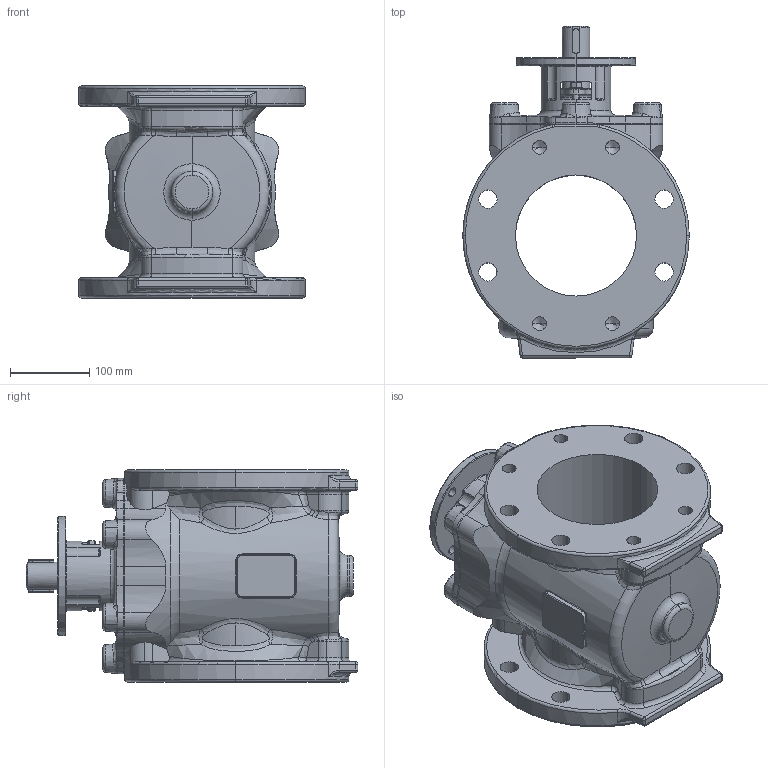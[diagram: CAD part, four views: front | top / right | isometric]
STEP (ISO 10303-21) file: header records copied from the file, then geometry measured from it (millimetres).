
FILE_DESCRIPTION (( 'STEP AP203' ), '1' );
FILE_NAME ('O_764_01_DN150_1XXXXXX000_REV02.step', '2021-02-03T08:56:39', ( '' ), ( '' ), 'SwSTEP 2.0', 'SolidWorks 2019', '' );
FILE_SCHEMA (( 'CONFIG_CONTROL_DESIGN' ));
Length unit declared in the file: millimetre
Products named in the file (1): O_764_01_DN150_1XXXXXX000_REV02
Bounding box: 285 x 417.8 x 267 mm (x, y, z)
Volume: 9162850.5 mm3; surface area: 633904.8 mm2
Topology: 1 solids, 1 shells, 759 faces, 1885 edges, 1111 vertices
Faces by surface type: cylinder 248, torus 173, plane 130, bspline 120, cone 80, sphere 8
Entity records: 34173 total; most frequent: CARTESIAN_POINT 16948, ORIENTED_EDGE 3690, DIRECTION 3605, EDGE_CURVE 1845, AXIS2_PLACEMENT_3D 1568, VERTEX_POINT 1111, CIRCLE 928, EDGE_LOOP 824
